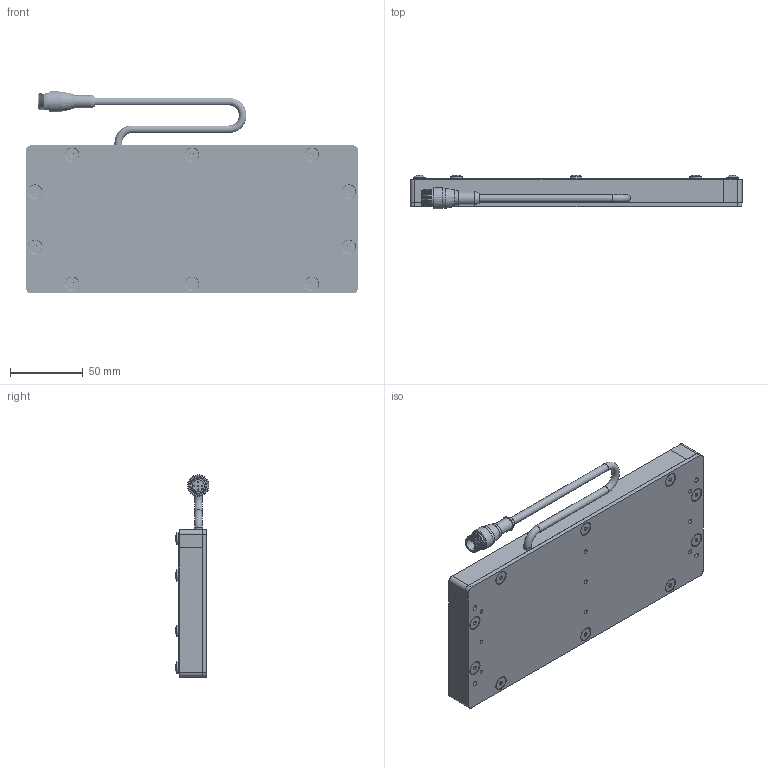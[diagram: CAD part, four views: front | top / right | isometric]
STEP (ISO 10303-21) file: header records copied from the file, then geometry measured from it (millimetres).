
FILE_DESCRIPTION (( 'STEP AP214' ), '1' );
FILE_NAME ('SBL38-XXX.STEP', '2026-04-17T18:39:41', ( '' ), ( '' ), 'SwSTEP 2.0', 'SolidWorks 2025', '' );
FILE_SCHEMA (( 'AUTOMOTIVE_DESIGN' ));
Length unit declared in the file: inch
Products named in the file (12): SBL3 to 18in rail_03in rail; M12 Connector 4,5 and 8 pin_RS4.5T; 8-32 x 0.375 FHCS (92210A192)_92210A192; SBL3 to 18in rail_08in No CG; MC Pigtail 24; SBL38-XXX; SC Pigtail Complete 18_5pin; BackPlate BLYYXX_0308; 8-32 x .375 Nylon Screw_.375" 94611A192; WD-SBLYYXX_3x8 with holes; Hex Standoff .375 x 8-32; SBL3 to 18in rail_08in rail
Assembly tree (39 placements, depth 3):
  SBL38-XXX
    BackPlate BLYYXX_0308
    SBL3 to 18in rail_08in rail
    SBL3 to 18in rail_08in No CG
    SBL3 to 18in rail_03in rail  x2
    SC Pigtail Complete 18_5pin
      MC Pigtail 24
      M12 Connector 4,5 and 8 pin_RS4.5T
    WD-SBLYYXX_3x8 with holes
    Hex Standoff .375 x 8-32  x10
    8-32 x 0.375 FHCS (92210A192)_92210A192  x10
    8-32 x .375 Nylon Screw_.375" 94611A192  x10
Bounding box: 228.6 x 23.38 x 139.13 mm (x, y, z)
Volume: 244230.2 mm3; surface area: 151692.3 mm2
Topology: 38 solids, 38 shells, 1191 faces, 2965 edges, 1891 vertices
Faces by surface type: plane 449, bspline 270, cylinder 255, cone 179, torus 23, sphere 15
Full cylindrical faces by diameter (mm): 0.762 x5, 2.705 x9, 3.454 x14, 4.496 x30, 5.207 x3, 6.604 x8, 6.858 x10, 8.128 x10, 8.382 x1, 8.636 x1, 9.119 x10, 10.16 x1, 10.541 x1, 11.938 x1, 13.716 x2, 14.732 x1
Entity records: 17071 total; most frequent: CARTESIAN_POINT 5828, DIRECTION 2043, ORIENTED_EDGE 1760, EDGE_CURVE 880, AXIS2_PLACEMENT_3D 829, EDGE_LOOP 645, VERTEX_POINT 643, FACE_OUTER_BOUND 490
